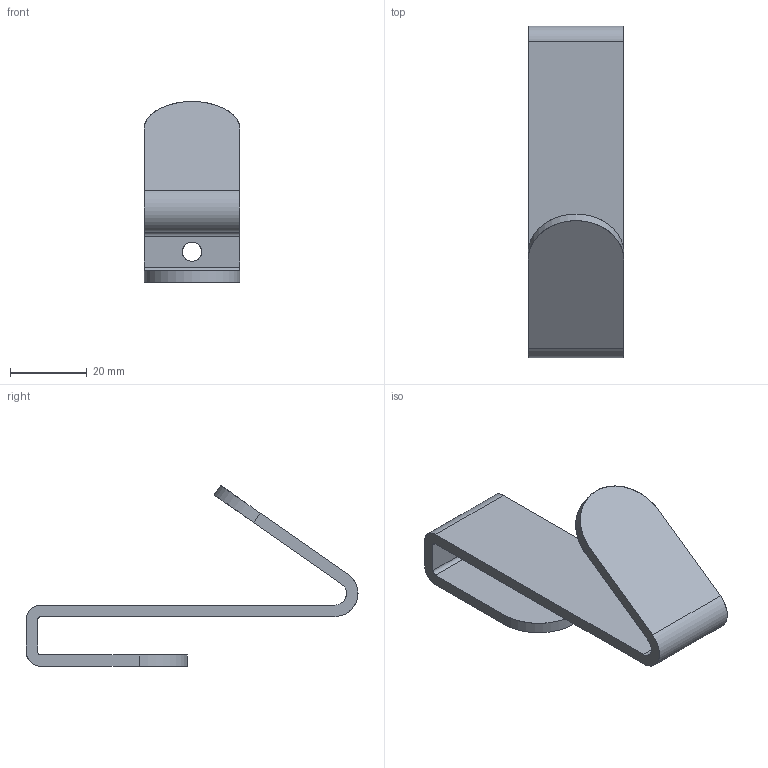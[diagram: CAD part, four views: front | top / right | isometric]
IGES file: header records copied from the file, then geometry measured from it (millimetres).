
Start section: SolidWorks IGES file using analytic representation for surfaces
Global section: file name: G:\Projects\New project\For Marketing\689-Archibest\235##23.IGS; native system: SolidWorks 2016; preprocessor: SolidWorks 2016; author: merry; date: 190411.151122; units: millimetre
Bounding box: 25 x 86.48 x 47.14 mm (x, y, z)
Surface area: 10024.9 mm2 (no closed solid volume)
Topology: 0 solids, 0 shells, 22 faces, 352 edges, 352 vertices
Faces by surface type: revolution 12, bspline 10
